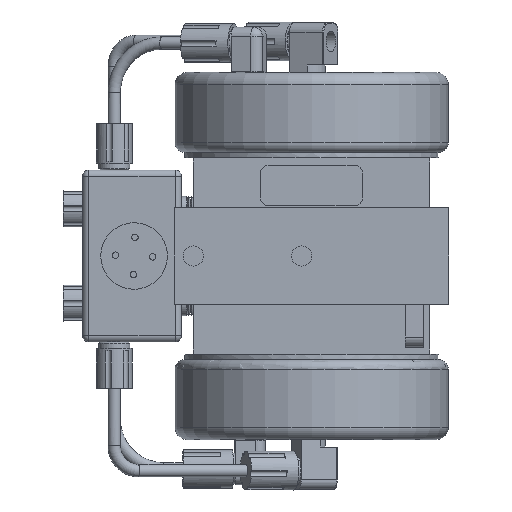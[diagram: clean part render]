
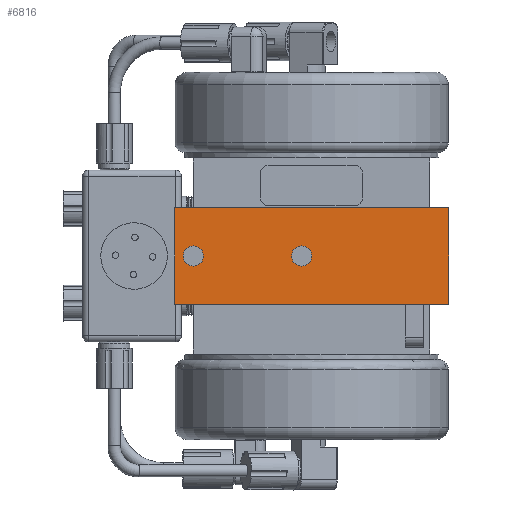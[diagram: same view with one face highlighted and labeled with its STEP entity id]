
A CAD part, front view. The second image highlights one B-rep face of the part: STEP entity #6816.
In plain terms, the highlighted planar face has unit normal (0, -1, 0).
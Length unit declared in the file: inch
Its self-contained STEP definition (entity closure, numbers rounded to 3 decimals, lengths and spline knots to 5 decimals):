
#1293 = ORIENTED_EDGE ( 'NONE', *, *, #21514, .T. ) ;
#1297 = ORIENTED_EDGE ( 'NONE', *, *, #21515, .T. ) ;
#1299 = ORIENTED_EDGE ( 'NONE', *, *, #21486, .T. ) ;
#1301 = ORIENTED_EDGE ( 'NONE', *, *, #21513, .F. ) ;
#1303 = ORIENTED_EDGE ( 'NONE', *, *, #21511, .T. ) ;
#1305 = ORIENTED_EDGE ( 'NONE', *, *, #21510, .F. ) ;
#6816 = ADVANCED_FACE ( 'NONE', ( #45971, #45975, #45980 ), #34776, .T. ) ;
#8332 = AXIS2_PLACEMENT_3D ( 'NONE', #34774, #34770, #34778 ) ;
#10067 = CARTESIAN_POINT ( 'NONE',  ( -2.757, -3.132, -0.975 ) ) ;
#10069 = DIRECTION ( 'NONE',  ( 1., 0., 0. ) ) ;
#10189 = CARTESIAN_POINT ( 'NONE',  ( -2.757, -3.132, -0.975 ) ) ;
#10202 = DIRECTION ( 'NONE',  ( 0., 0., 1. ) ) ;
#10206 = CARTESIAN_POINT ( 'NONE',  ( 2.757, -3.132, 0.975 ) ) ;
#10209 = DIRECTION ( 'NONE',  ( -1., 0., 0. ) ) ;
#10215 = CARTESIAN_POINT ( 'NONE',  ( 2.757, -3.132, 0.975 ) ) ;
#10217 = DIRECTION ( 'NONE',  ( 0., 0., -1. ) ) ;
#10224 = CARTESIAN_POINT ( 'NONE',  ( -2.382, -3.132, 0. ) ) ;
#10226 = DIRECTION ( 'NONE',  ( 0., 1., 0. ) ) ;
#10228 = DIRECTION ( 'NONE',  ( 0., 0., 1. ) ) ;
#10230 = CARTESIAN_POINT ( 'NONE',  ( -0.2, -3.132, 0. ) ) ;
#10232 = DIRECTION ( 'NONE',  ( 0., 1., 0. ) ) ;
#10234 = DIRECTION ( 'NONE',  ( 0., 0., 1. ) ) ;
#19794 = EDGE_LOOP ( 'NONE', ( #1297 ) ) ;
#19895 = EDGE_LOOP ( 'NONE', ( #1293 ) ) ;
#19940 = EDGE_LOOP ( 'NONE', ( #1299, #1301, #1303, #1305 ) ) ;
#21486 = EDGE_CURVE ( 'NONE', #31291, #28339, #22152, .T. ) ;
#21510 = EDGE_CURVE ( 'NONE', #31291, #31303, #22178, .T. ) ;
#21511 = EDGE_CURVE ( 'NONE', #31238, #31303, #22191, .T. ) ;
#21513 = EDGE_CURVE ( 'NONE', #31238, #28339, #22195, .T. ) ;
#21514 = EDGE_CURVE ( 'NONE', #39085, #39085, #22197, .T. ) ;
#21515 = EDGE_CURVE ( 'NONE', #39086, #39086, #22201, .T. ) ;
#22152 = LINE ( 'NONE', #10067, #22155 ) ;
#22155 = VECTOR ( 'NONE', #10069, 39.37008 ) ;
#22178 = LINE ( 'NONE', #10189, #22192 ) ;
#22191 = LINE ( 'NONE', #10206, #22194 ) ;
#22192 = VECTOR ( 'NONE', #10202, 39.37008 ) ;
#22194 = VECTOR ( 'NONE', #10209, 39.37008 ) ;
#22195 = LINE ( 'NONE', #10215, #22198 ) ;
#22197 = CIRCLE ( 'NONE', #34358, 0.203 ) ;
#22198 = VECTOR ( 'NONE', #10217, 39.37008 ) ;
#22201 = CIRCLE ( 'NONE', #34359, 0.203 ) ;
#25569 = CARTESIAN_POINT ( 'NONE',  ( 2.757, -3.132, -0.975 ) ) ;
#25701 = CARTESIAN_POINT ( 'NONE',  ( -2.757, -3.132, -0.975 ) ) ;
#25707 = CARTESIAN_POINT ( 'NONE',  ( 2.757, -3.132, 0.975 ) ) ;
#25708 = CARTESIAN_POINT ( 'NONE',  ( -2.757, -3.132, 0.975 ) ) ;
#28339 = VERTEX_POINT ( 'NONE', #25569 ) ;
#31238 = VERTEX_POINT ( 'NONE', #25707 ) ;
#31291 = VERTEX_POINT ( 'NONE', #25701 ) ;
#31303 = VERTEX_POINT ( 'NONE', #25708 ) ;
#34358 = AXIS2_PLACEMENT_3D ( 'NONE', #10224, #10226, #10228 ) ;
#34359 = AXIS2_PLACEMENT_3D ( 'NONE', #10230, #10232, #10234 ) ;
#34770 = DIRECTION ( 'NONE',  ( 0., -1., 0. ) ) ;
#34774 = CARTESIAN_POINT ( 'NONE',  ( -2.757, -3.132, -0.975 ) ) ;
#34776 = PLANE ( 'NONE',  #8332 ) ;
#34778 = DIRECTION ( 'NONE',  ( 0., 0., -1. ) ) ;
#38549 = CARTESIAN_POINT ( 'NONE',  ( -2.382, -3.132, 0.203 ) ) ;
#38550 = CARTESIAN_POINT ( 'NONE',  ( -0.2, -3.132, 0.203 ) ) ;
#39085 = VERTEX_POINT ( 'NONE', #38549 ) ;
#39086 = VERTEX_POINT ( 'NONE', #38550 ) ;
#45971 = FACE_BOUND ( 'NONE', #19895, .T. ) ;
#45975 = FACE_BOUND ( 'NONE', #19794, .T. ) ;
#45980 = FACE_OUTER_BOUND ( 'NONE', #19940, .T. ) ;
